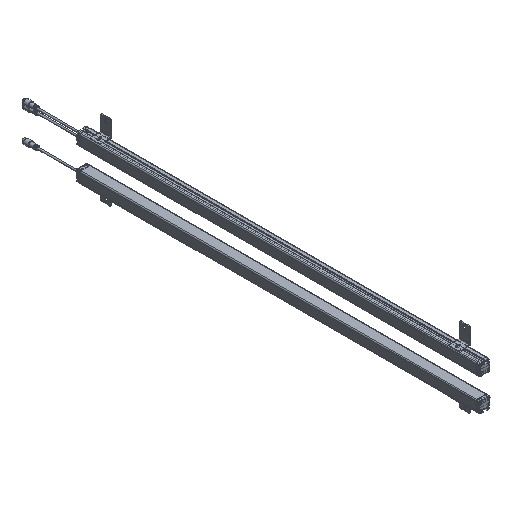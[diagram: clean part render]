
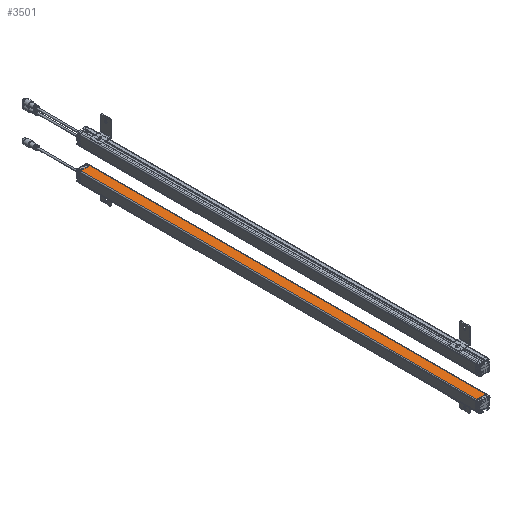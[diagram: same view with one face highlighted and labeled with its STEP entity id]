
A CAD part, isometric view. The second image highlights one B-rep face of the part: STEP entity #3501.
In plain terms, the highlighted planar face has unit normal (0, 0, 1).
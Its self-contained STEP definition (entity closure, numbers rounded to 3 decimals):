
#2365=PLANE('',#25462);
#3501=ADVANCED_FACE('',(#4986),#2365,.T.);
#4986=FACE_OUTER_BOUND('',#6190,.T.);
#6190=EDGE_LOOP('',(#14842,#14843,#14844,#14845));
#7993=LINE('',#37059,#10389);
#7994=LINE('',#37062,#10390);
#7995=LINE('',#37064,#10391);
#7996=LINE('',#37066,#10392);
#10389=VECTOR('',#29435,1.);
#10390=VECTOR('',#29436,1.);
#10391=VECTOR('',#29437,1.);
#10392=VECTOR('',#29438,1.);
#14842=ORIENTED_EDGE('',*,*,#22182,.T.);
#14843=ORIENTED_EDGE('',*,*,#22183,.T.);
#14844=ORIENTED_EDGE('',*,*,#22184,.T.);
#14845=ORIENTED_EDGE('',*,*,#22185,.T.);
#19419=VERTEX_POINT('',#37060);
#19420=VERTEX_POINT('',#37061);
#19421=VERTEX_POINT('',#37063);
#19422=VERTEX_POINT('',#37065);
#22182=EDGE_CURVE('',#19419,#19420,#7993,.T.);
#22183=EDGE_CURVE('',#19420,#19421,#7994,.T.);
#22184=EDGE_CURVE('',#19421,#19422,#7995,.T.);
#22185=EDGE_CURVE('',#19422,#19419,#7996,.T.);
#25462=AXIS2_PLACEMENT_3D('',#37067,#29439,#29440);
#29435=DIRECTION('',(1.,0.,0.));
#29436=DIRECTION('',(0.,1.,0.));
#29437=DIRECTION('',(-1.,0.,0.));
#29438=DIRECTION('',(0.,-1.,0.));
#29439=DIRECTION('',(0.,0.,1.));
#29440=DIRECTION('',(1.,0.,0.));
#37059=CARTESIAN_POINT('',(0.,-865.,15.65));
#37060=CARTESIAN_POINT('',(-12.7,-865.,15.65));
#37061=CARTESIAN_POINT('',(12.7,-865.,15.65));
#37062=CARTESIAN_POINT('',(12.7,0.,15.65));
#37063=CARTESIAN_POINT('',(12.7,260.,15.65));
#37064=CARTESIAN_POINT('',(-15.2,260.,15.65));
#37065=CARTESIAN_POINT('',(-12.7,260.,15.65));
#37066=CARTESIAN_POINT('',(-12.7,0.,15.65));
#37067=CARTESIAN_POINT('',(-15.2,0.,15.65));
